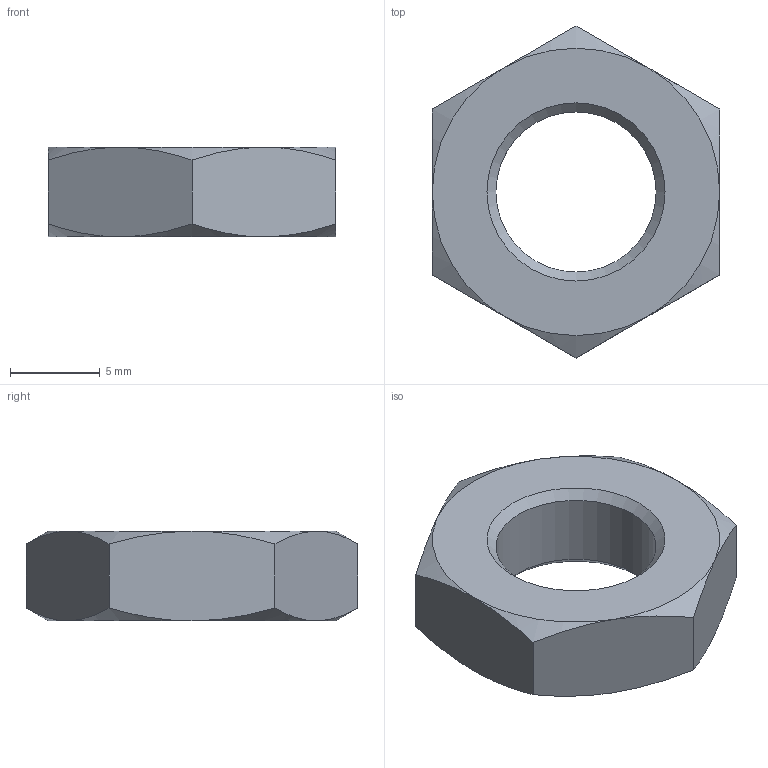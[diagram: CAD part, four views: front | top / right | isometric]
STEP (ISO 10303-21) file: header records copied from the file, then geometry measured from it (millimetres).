
FILE_DESCRIPTION(/* description */ ('6각 가는 너트 - 이중 모따기(부품 등급 A) - 정밀 나사산'),/* implementation_level */ '2;1');
FILE_NAME(/* name */ '',/* time_stamp */ '2024-04-08T11:16:40+09:00',/* author */ ('jhkim'),/* organization */ (''),/* preprocessor_version */ 'ST-DEVELOPER v20',/* originating_system */ 'Autodesk Inventor 2025',/* authorisation */ '');
FILE_SCHEMA (('AUTOMOTIVE_DESIGN { 1 0 10303 214 3 1 1 }'));
Length unit declared in the file: millimetre
Products named in the file (1): 육각 너트 M10x1
Bounding box: 16 x 18.48 x 5 mm (x, y, z)
Volume: 780.1 mm3; surface area: 699.2 mm2
Topology: 1 solids, 1 shells, 23 faces, 50 edges, 29 vertices
Faces by surface type: cone 14, plane 8, cylinder 1
Full cylindrical faces by diameter (mm): 8.917 x1
Entity records: 640 total; most frequent: CARTESIAN_POINT 151, ORIENTED_EDGE 100, DIRECTION 91, EDGE_CURVE 50, AXIS2_PLACEMENT_3D 41, VERTEX_POINT 29, EDGE_LOOP 25, FACE_OUTER_BOUND 23
